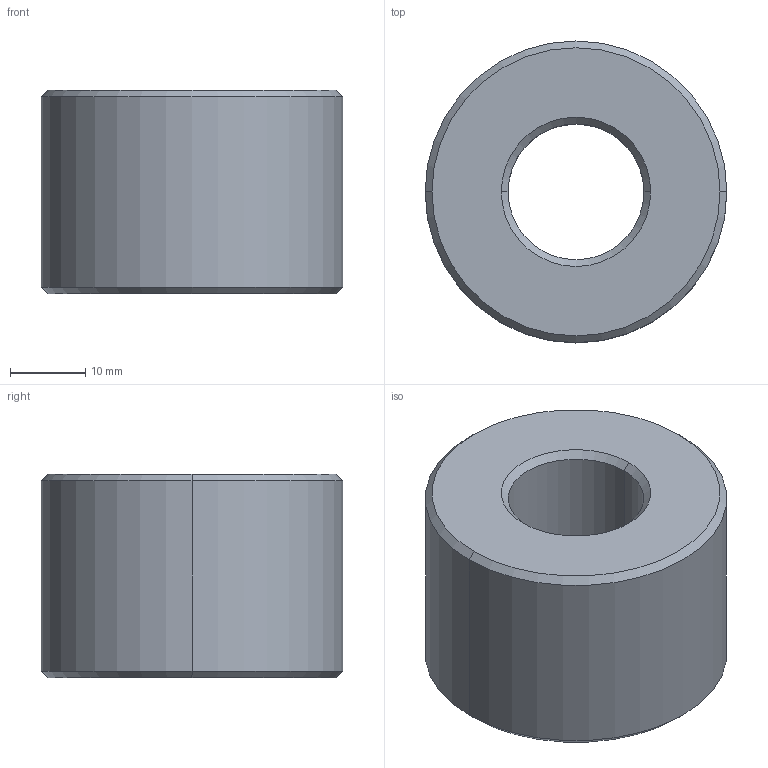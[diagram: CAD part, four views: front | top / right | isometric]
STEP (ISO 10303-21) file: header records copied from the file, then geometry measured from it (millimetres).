
FILE_DESCRIPTION (( 'STEP AP203' ), '1' );
FILE_NAME ('L1339.R18-04.step', '2024-10-24T14:09:15', ( '' ), ( '' ), 'SwSTEP 2.0', 'SolidWorks 2019', '' );
FILE_SCHEMA (( 'CONFIG_CONTROL_DESIGN' ));
Length unit declared in the file: millimetre
Products named in the file (1): L1339.R18-04
Bounding box: 40 x 40 x 27 mm (x, y, z)
Volume: 26910.9 mm3; surface area: 6731.9 mm2
Topology: 1 solids, 1 shells, 14 faces, 28 edges, 16 vertices
Faces by surface type: cone 8, cylinder 4, plane 2
Entity records: 445 total; most frequent: DIRECTION 74, CARTESIAN_POINT 59, ORIENTED_EDGE 56, AXIS2_PLACEMENT_3D 31, EDGE_CURVE 28, CIRCLE 16, VERTEX_POINT 16, EDGE_LOOP 16
